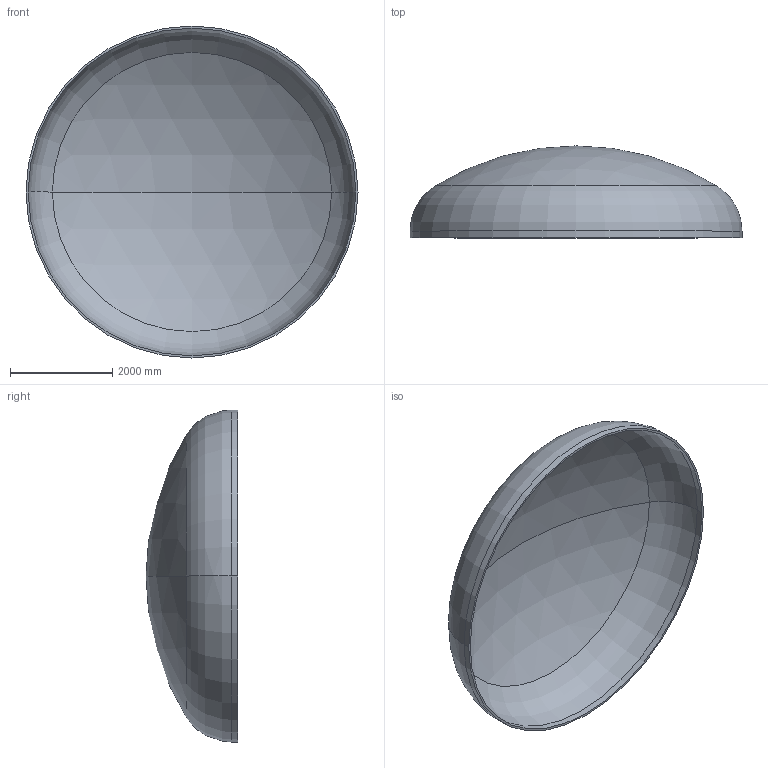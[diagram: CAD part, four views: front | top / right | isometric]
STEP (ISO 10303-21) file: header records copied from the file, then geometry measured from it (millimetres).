
FILE_DESCRIPTION (( 'STEP AP203' ), '1' );
FILE_NAME ('DIN 28013 Korbbogenform_-_Boden DIN 28013 - 6500 x 130 - I - s=42.step', '2016-07-04T10:41:56', ( '' ), ( '' ), 'SwSTEP 2.0', 'SolidWorks 2013', '' );
FILE_SCHEMA (( 'CONFIG_CONTROL_DESIGN' ));
Length unit declared in the file: millimetre
Products named in the file (1): DIN 28013 Korbbogenform_-_Boden DIN 28013 - 6500 x 130 - I - s=42
Bounding box: 6500 x 1799.22 x 6500 mm (x, y, z)
Volume: 2024254489.1 mm3; surface area: 97248841.1 mm2
Topology: 1 solids, 1 shells, 13 faces, 24 edges, 14 vertices
Faces by surface type: torus 4, cylinder 4, sphere 4, plane 1
Entity records: 407 total; most frequent: DIRECTION 72, CARTESIAN_POINT 52, ORIENTED_EDGE 48, AXIS2_PLACEMENT_3D 34, EDGE_CURVE 24, CIRCLE 20, EDGE_LOOP 14, VERTEX_POINT 14
